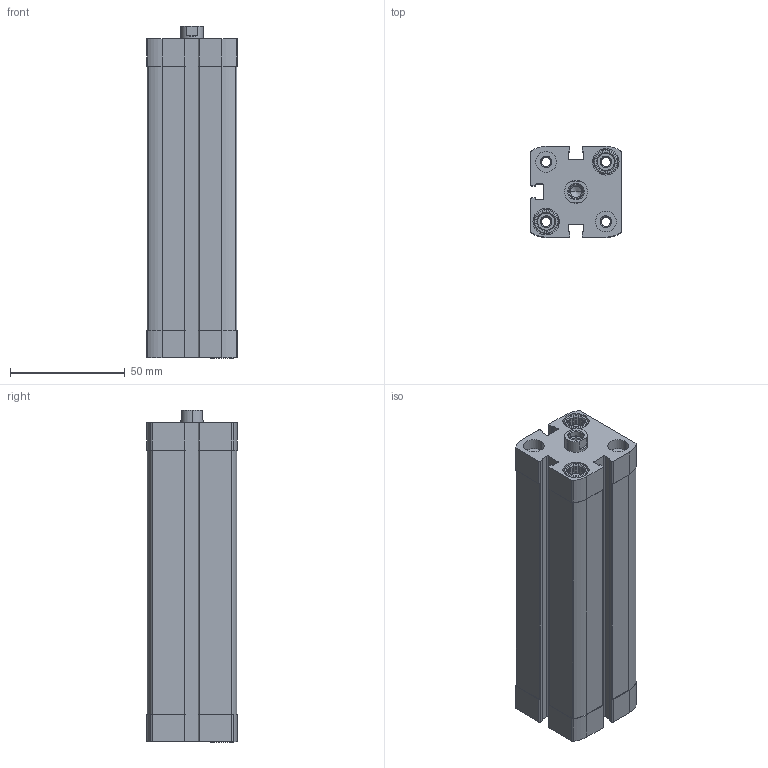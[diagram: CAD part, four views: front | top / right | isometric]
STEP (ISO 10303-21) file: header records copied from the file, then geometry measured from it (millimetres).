
FILE_DESCRIPTION (( 'STEP AP203' ), '1' );
FILE_NAME ('CCN25-100F.STEP', '2017-03-28T17:49:58', ( '' ), ( '' ), 'SwSTEP 2.0', 'SolidWorks 2016', '' );
FILE_SCHEMA (( 'CONFIG_CONTROL_DESIGN' ));
Length unit declared in the file: millimetre
Products named in the file (3): CCN-100---(Z); CCN-100_(KS); CCN25-100F
Assembly tree (2 placements, depth 2):
  CCN25-100F
    CCN-100---(Z)
    CCN-100_(KS)
Bounding box: 39.5 x 39.5 x 144.5 mm (x, y, z)
Volume: 141949.2 mm3; surface area: 55469.7 mm2
Topology: 2 solids, 2 shells, 407 faces, 1082 edges, 709 vertices
Faces by surface type: plane 231, cylinder 134, cone 42
Entity records: 13141 total; most frequent: CARTESIAN_POINT 2495, DIRECTION 2220, ORIENTED_EDGE 2160, EDGE_CURVE 1080, AXIS2_PLACEMENT_3D 826, VERTEX_POINT 709, VECTOR 568, LINE 568
